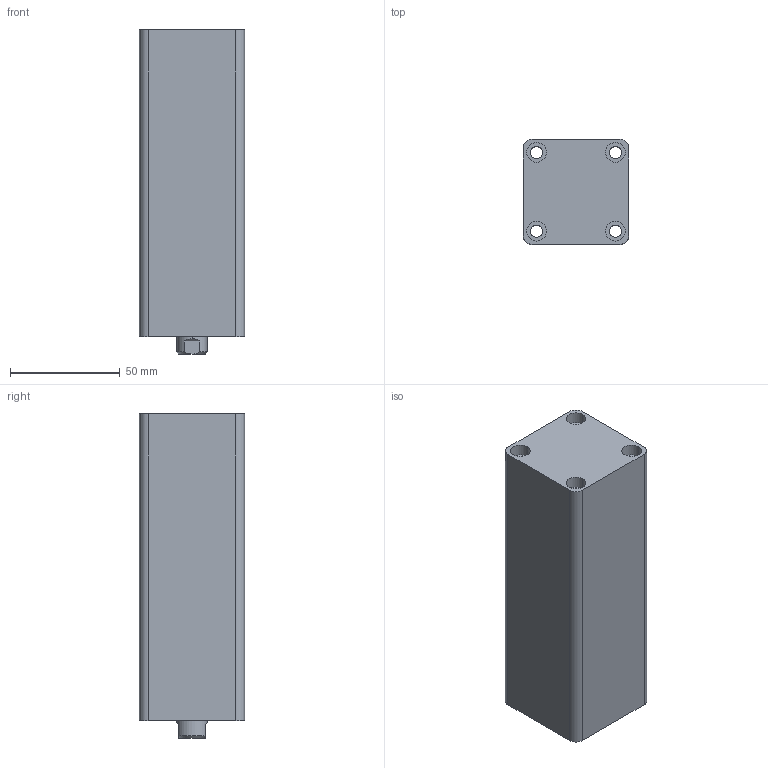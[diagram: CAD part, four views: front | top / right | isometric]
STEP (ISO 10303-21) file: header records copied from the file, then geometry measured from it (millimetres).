
FILE_DESCRIPTION (( 'STEP AP203' ), '1' );
FILE_NAME ('HTB-SD25-95N.STEP', '2019-10-07T06:21:10', ( '微软用户' ), ( '微软中国' ), 'SwSTEP 2.0', 'SolidWorks 2012', '' );
FILE_SCHEMA (( 'CONFIG_CONTROL_DESIGN' ));
Length unit declared in the file: millimetre
Products named in the file (3): HTB-SD25-95N活塞杆; HTB-SD25-95N; HTB-SD25-95掛极
Assembly tree (2 placements, depth 2):
  HTB-SD25-95N
    HTB-SD25-95掛极
    HTB-SD25-95N活塞杆
Bounding box: 48 x 48 x 148 mm (x, y, z)
Volume: 272371 mm3; surface area: 59361.3 mm2
Topology: 2 solids, 2 shells, 83 faces, 182 edges, 117 vertices
Faces by surface type: cylinder 42, plane 27, cone 8, torus 6
Entity records: 2653 total; most frequent: DIRECTION 454, CARTESIAN_POINT 429, ORIENTED_EDGE 360, AXIS2_PLACEMENT_3D 194, EDGE_CURVE 180, VERTEX_POINT 117, EDGE_LOOP 107, CIRCLE 106
